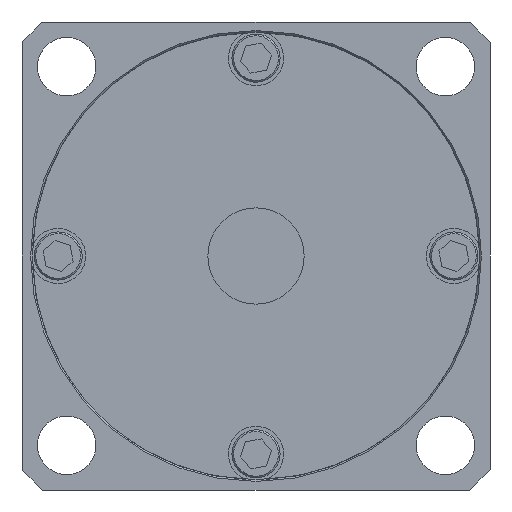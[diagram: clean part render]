
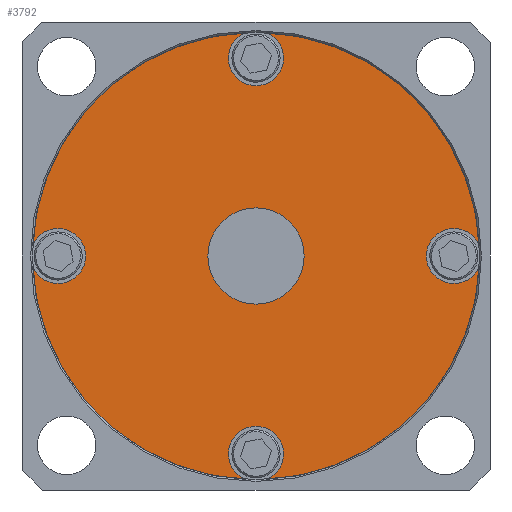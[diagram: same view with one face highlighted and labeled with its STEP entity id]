
A CAD part, front view. The second image highlights one B-rep face of the part: STEP entity #3792.
In plain terms, the highlighted planar face has unit normal (0, -1, 0).
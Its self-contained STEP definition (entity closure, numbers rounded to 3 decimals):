
#3103=CARTESIAN_POINT('',(0.,0.,0.));
#3104=DIRECTION('',(0.,1.,0.));
#3105=DIRECTION('',(0.,0.,-1.));
#3106=AXIS2_PLACEMENT_3D('',#3103,#3104,#3105);
#3111=CARTESIAN_POINT('',(0.,0.,0.));
#3112=DIRECTION('',(0.,1.,0.));
#3113=DIRECTION('',(0.,0.,1.));
#3114=AXIS2_PLACEMENT_3D('',#3111,#3112,#3113);
#3119=CARTESIAN_POINT('',(0.,0.,0.));
#3120=DIRECTION('',(0.,-1.,0.));
#3121=DIRECTION('',(0.046,0.,-0.999));
#3122=AXIS2_PLACEMENT_3D('',#3119,#3120,#3121);
#3127=CARTESIAN_POINT('',(0.,0.,-28.75));
#3128=DIRECTION('',(0.,1.,0.));
#3129=DIRECTION('',(0.,0.,1.));
#3130=AXIS2_PLACEMENT_3D('',#3127,#3128,#3129);
#3135=CARTESIAN_POINT('',(0.,0.,-28.75));
#3136=DIRECTION('',(0.,1.,0.));
#3137=DIRECTION('',(-0.37,0.,-0.929));
#3138=AXIS2_PLACEMENT_3D('',#3135,#3136,#3137);
#3143=CARTESIAN_POINT('',(0.,0.,0.));
#3144=DIRECTION('',(0.,-1.,0.));
#3145=DIRECTION('',(-0.999,0.,-0.046));
#3146=AXIS2_PLACEMENT_3D('',#3143,#3144,#3145);
#3151=CARTESIAN_POINT('',(-28.75,0.,0.));
#3152=DIRECTION('',(0.,1.,0.));
#3153=DIRECTION('',(0.,0.,-1.));
#3154=AXIS2_PLACEMENT_3D('',#3151,#3152,#3153);
#3159=CARTESIAN_POINT('',(-28.75,0.,0.));
#3160=DIRECTION('',(0.,1.,0.));
#3161=DIRECTION('',(0.,0.,1.));
#3162=AXIS2_PLACEMENT_3D('',#3159,#3160,#3161);
#3167=CARTESIAN_POINT('',(-28.75,0.,0.));
#3168=DIRECTION('',(0.,1.,0.));
#3169=DIRECTION('',(-0.929,0.,0.37));
#3170=AXIS2_PLACEMENT_3D('',#3167,#3168,#3169);
#3175=CARTESIAN_POINT('',(0.,0.,0.));
#3176=DIRECTION('',(0.,-1.,0.));
#3177=DIRECTION('',(-0.046,0.,0.999));
#3178=AXIS2_PLACEMENT_3D('',#3175,#3176,#3177);
#3183=CARTESIAN_POINT('',(0.,0.,28.75));
#3184=DIRECTION('',(0.,1.,0.));
#3185=DIRECTION('',(0.,0.,-1.));
#3186=AXIS2_PLACEMENT_3D('',#3183,#3184,#3185);
#3191=CARTESIAN_POINT('',(0.,0.,28.75));
#3192=DIRECTION('',(0.,1.,0.));
#3193=DIRECTION('',(0.37,0.,0.929));
#3194=AXIS2_PLACEMENT_3D('',#3191,#3192,#3193);
#3199=CARTESIAN_POINT('',(0.,0.,0.));
#3200=DIRECTION('',(0.,-1.,0.));
#3201=DIRECTION('',(0.999,0.,0.046));
#3202=AXIS2_PLACEMENT_3D('',#3199,#3200,#3201);
#3207=CARTESIAN_POINT('',(28.75,0.,0.));
#3208=DIRECTION('',(0.,1.,0.));
#3209=DIRECTION('',(0.,0.,1.));
#3210=AXIS2_PLACEMENT_3D('',#3207,#3208,#3209);
#3215=CARTESIAN_POINT('',(28.75,0.,0.));
#3216=DIRECTION('',(0.,1.,0.));
#3217=DIRECTION('',(0.,0.,-1.));
#3218=AXIS2_PLACEMENT_3D('',#3215,#3216,#3217);
#3223=CARTESIAN_POINT('',(28.75,0.,0.));
#3224=DIRECTION('',(0.,1.,0.));
#3225=DIRECTION('',(0.929,0.,-0.37));
#3226=AXIS2_PLACEMENT_3D('',#3223,#3224,#3225);
#3416=CARTESIAN_POINT('',(28.75,0.,-4.));
#3417=VERTEX_POINT('',#3416);
#3418=CARTESIAN_POINT('',(32.466,0.,-1.48));
#3419=VERTEX_POINT('',#3418);
#3426=CARTESIAN_POINT('',(28.75,0.,4.));
#3427=VERTEX_POINT('',#3426);
#3438=CARTESIAN_POINT('',(1.48,0.,-32.466));
#3439=VERTEX_POINT('',#3438);
#3444=CARTESIAN_POINT('',(0.,0.,-24.75));
#3445=VERTEX_POINT('',#3444);
#3446=CARTESIAN_POINT('',(-1.48,0.,-32.466));
#3447=VERTEX_POINT('',#3446);
#3448=CARTESIAN_POINT('',(32.466,0.,1.48));
#3449=VERTEX_POINT('',#3448);
#3464=CARTESIAN_POINT('',(1.48,0.,32.466));
#3465=VERTEX_POINT('',#3464);
#3474=CARTESIAN_POINT('',(-28.75,0.,-4.));
#3475=VERTEX_POINT('',#3474);
#3476=CARTESIAN_POINT('',(-28.75,0.,4.));
#3477=VERTEX_POINT('',#3476);
#3478=CARTESIAN_POINT('',(-32.466,0.,-1.48));
#3479=VERTEX_POINT('',#3478);
#3480=CARTESIAN_POINT('',(0.,0.,24.75));
#3481=CARTESIAN_POINT('',(-1.48,0.,32.466));
#3482=VERTEX_POINT('',#3480);
#3483=VERTEX_POINT('',#3481);
#3488=CARTESIAN_POINT('',(0.,0.,7.));
#3490=VERTEX_POINT('',#3488);
#3492=CARTESIAN_POINT('',(-32.466,0.,1.48));
#3493=VERTEX_POINT('',#3492);
#3496=CARTESIAN_POINT('',(0.,0.,-7.));
#3497=VERTEX_POINT('',#3496);
#3760=CARTESIAN_POINT('',(0.,0.,0.));
#3761=DIRECTION('',(0.,1.,0.));
#3762=DIRECTION('',(0.,0.,-1.));
#3763=AXIS2_PLACEMENT_3D('',#3760,#3761,#3762);
#3764=PLANE('',#3763);
#3765=ORIENTED_EDGE('',*,*,#3652,.F.);
#3767=ORIENTED_EDGE('',*,*,#3766,.F.);
#3769=ORIENTED_EDGE('',*,*,#3768,.F.);
#3770=ORIENTED_EDGE('',*,*,#3688,.F.);
#3772=ORIENTED_EDGE('',*,*,#3771,.F.);
#3774=ORIENTED_EDGE('',*,*,#3773,.F.);
#3776=ORIENTED_EDGE('',*,*,#3775,.F.);
#3777=ORIENTED_EDGE('',*,*,#3680,.F.);
#3778=ORIENTED_EDGE('',*,*,#3749,.F.);
#3779=ORIENTED_EDGE('',*,*,#3755,.F.);
#3780=ORIENTED_EDGE('',*,*,#3657,.F.);
#3781=ORIENTED_EDGE('',*,*,#3605,.F.);
#3782=ORIENTED_EDGE('',*,*,#3620,.F.);
#3783=ORIENTED_EDGE('',*,*,#3635,.F.);
#3784=EDGE_LOOP('',(#3765,#3767,#3769,#3770,#3772,#3774,#3776,#3777,#3778,#3779,
#3780,#3781,#3782,#3783));
#3785=FACE_OUTER_BOUND('',#3784,.F.);
#3787=ORIENTED_EDGE('',*,*,#3786,.F.);
#3789=ORIENTED_EDGE('',*,*,#3788,.F.);
#3790=EDGE_LOOP('',(#3787,#3789));
#3791=FACE_BOUND('',#3790,.F.);
#3107=CIRCLE('',#3106,7.);
#3115=CIRCLE('',#3114,7.);
#3123=CIRCLE('',#3122,32.5);
#3131=CIRCLE('',#3130,4.);
#3139=CIRCLE('',#3138,4.);
#3147=CIRCLE('',#3146,32.5);
#3155=CIRCLE('',#3154,4.);
#3163=CIRCLE('',#3162,4.);
#3171=CIRCLE('',#3170,4.);
#3179=CIRCLE('',#3178,32.5);
#3187=CIRCLE('',#3186,4.);
#3195=CIRCLE('',#3194,4.);
#3203=CIRCLE('',#3202,32.5);
#3211=CIRCLE('',#3210,4.);
#3219=CIRCLE('',#3218,4.);
#3227=CIRCLE('',#3226,4.);
#3605=EDGE_CURVE('',#3427,#3449,#3211,.T.);
#3620=EDGE_CURVE('',#3417,#3427,#3219,.T.);
#3635=EDGE_CURVE('',#3419,#3417,#3227,.T.);
#3652=EDGE_CURVE('',#3439,#3419,#3123,.T.);
#3657=EDGE_CURVE('',#3449,#3465,#3203,.T.);
#3680=EDGE_CURVE('',#3483,#3493,#3179,.T.);
#3688=EDGE_CURVE('',#3479,#3447,#3147,.T.);
#3749=EDGE_CURVE('',#3482,#3483,#3187,.T.);
#3755=EDGE_CURVE('',#3465,#3482,#3195,.T.);
#3766=EDGE_CURVE('',#3445,#3439,#3131,.T.);
#3768=EDGE_CURVE('',#3447,#3445,#3139,.T.);
#3771=EDGE_CURVE('',#3475,#3479,#3155,.T.);
#3773=EDGE_CURVE('',#3477,#3475,#3163,.T.);
#3775=EDGE_CURVE('',#3493,#3477,#3171,.T.);
#3786=EDGE_CURVE('',#3497,#3490,#3107,.T.);
#3788=EDGE_CURVE('',#3490,#3497,#3115,.T.);
#3792=ADVANCED_FACE('',(#3785,#3791),#3764,.F.);
